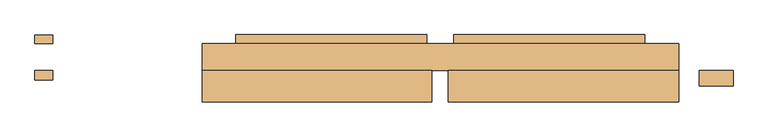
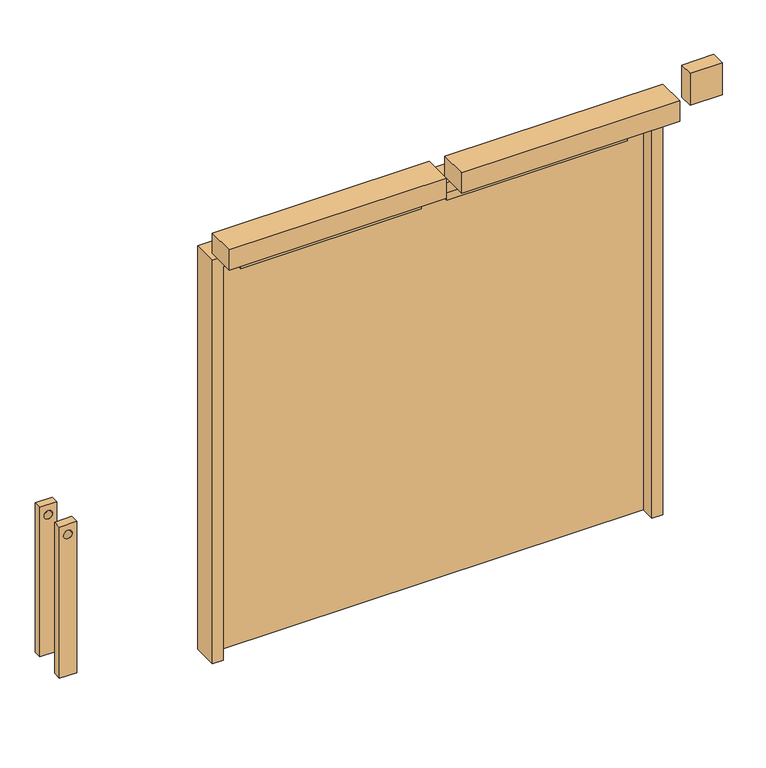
"""IFC4 building model written with IfcOpenShell, lengths in millimetres: door geometry, LOC_Pardörr : LOC_Pardörr."""

from ifc_helpers import new_model, si_unit, point, frame, frame_2d, origin, origin_with_axes, place, context, project, spatial, polyline, circle_curve, trimmed, segment, composite_curve, outline, extrude, source, transform, mapped, element, save


def door_583c14d2(model_context):
    return source(origin(), model_context, "Body", "SweptSolid", [
        extrude(outline(polyline([(905.0, 60.0), (60.0, 60.0), (60.0, 99.5123201), (905.0, 99.5123201), (905.0, 60.0)])), frame((0.0, 0.0, 1890.0), z_axis=(0.0, 0.0, 1.0), x_axis=(1.0, 0.0, 0.0)), (0.0, 0.0, 1.0), 40.0),
        extrude(outline(polyline([(-60.0, 60.0), (-905.0, 60.0), (-905.0, 99.5123201), (-60.0, 99.5123201), (-60.0, 60.0)])), frame((0.0, 0.0, 1890.0), z_axis=(0.0, 0.0, 1.0), x_axis=(1.0, 0.0, 0.0)), (0.0, 0.0, 1.0), 40.0),
        extrude(outline(polyline([(905.0, -31.5696103), (60.0, -31.5696103), (60.0, 10.0), (905.0, 10.0), (905.0, -31.5696103)])), frame((0.0, 0.0, 1890.0), z_axis=(0.0, 0.0, 1.0), x_axis=(1.0, 0.0, 0.0)), (0.0, 0.0, 1.0), 40.0),
        extrude(outline(polyline([(-60.0, -31.5696103), (-905.0, -31.5696103), (-905.0, 10.0), (-60.0, 10.0), (-60.0, -31.5696103)])), frame((0.0, 0.0, 1890.0), z_axis=(0.0, 0.0, 1.0), x_axis=(1.0, 0.0, 0.0)), (0.0, 0.0, 1.0), 40.0),
        extrude(outline(polyline([(1005.0, 10.0), (-1005.0, 10.0), (-1005.0, 60.0), (1005.0, 60.0), (1005.0, 10.0)])), origin_with_axes(), (0.0, 0.0, 1.0), 1950.0),
        extrude(outline(polyline([(2000.0, -1055.0), (0.0, -1055.0), (0.0, -1005.0), (1950.0, -1005.0), (1950.0, 1005.0), (0.0, 1005.0), (0.0, 1055.0), (2000.0, 1055.0), (2000.0, -1055.0)])), frame((0.0, -60.0, 0.0), z_axis=(0.0, 1.0, 0.0), x_axis=(0.0, 0.0, 1.0)), (0.0, 0.0, 1.0), 120.0),
        extrude(outline(polyline([(1295.9876923, -126.6811453), (1145.9876923, -126.6811453), (1145.9876923, -60.0), (1295.9876923, -60.0), (1295.9876923, -126.6811453)])), frame((0.0, 0.0, 2037.7010948), z_axis=(0.0, 0.0, 1.0), x_axis=(1.0, 0.0, 0.0)), (0.0, 0.0, 1.0), 160.0),
        extrude(outline(polyline([(961.8324144, -1715.0), (961.8324144, -1795.0), (211.8324144, -1795.0), (211.8324144, -1715.0), (961.8324144, -1715.0)]), holes=[composite_curve([segment(trimmed(circle_curve(frame_2d((911.8324144, -1755.0)), 20.0), [point((911.8324144, -1775.0))], [point((911.8324144, -1735.0))], True, "CARTESIAN"), True, "CONTINUOUS"), segment(trimmed(circle_curve(frame_2d((911.8324144, -1755.0)), 20.0), [point((911.8324144, -1735.0))], [point((911.8324144, -1775.0))], True, "CARTESIAN"), True, "CONTINUOUS")], self_intersect=False)]), frame((0.0, -99.9276756, 0.0), z_axis=(0.0, 1.0, 0.0), x_axis=(0.0, 0.0, 1.0)), (0.0, 0.0, 1.0), 39.9276756),
        extrude(outline(polyline([(961.8324144, -1795.0), (221.8324144, -1795.0), (221.8324144, -1715.0), (961.8324144, -1715.0), (961.8324144, -1795.0)]), holes=[composite_curve([segment(trimmed(circle_curve(frame_2d((911.9240107, -1755.0)), 20.0), [point((911.9240107, -1775.0))], [point((911.9240107, -1735.0))], True, "CARTESIAN"), True, "CONTINUOUS"), segment(trimmed(circle_curve(frame_2d((911.9240107, -1755.0)), 20.0), [point((911.9240107, -1735.0))], [point((911.9240107, -1775.0))], True, "CARTESIAN"), True, "CONTINUOUS")], self_intersect=False)]), frame((0.0, 60.0, 0.0), z_axis=(0.0, 1.0, 0.0), x_axis=(0.0, 0.0, 1.0)), (0.0, 0.0, 1.0), 37.1211251),
        extrude(outline(polyline([(1055.0, -198.0061913), (35.0, -198.0061913), (35.0, -60.0), (1055.0, -60.0), (1055.0, -198.0061913)])), frame((0.0, 0.0, 2035.3458836), z_axis=(0.0, 0.0, 1.0), x_axis=(1.0, 0.0, 0.0)), (0.0, 0.0, 1.0), 100.0),
        extrude(outline(polyline([(-38.7694663, -198.0061913), (-1055.0, -198.0061913), (-1055.0, -60.0), (-38.7694663, -60.0), (-38.7694663, -198.0061913)])), frame((0.0, 0.0, 2035.3458836), z_axis=(0.0, 0.0, 1.0), x_axis=(1.0, 0.0, 0.0)), (0.0, 0.0, 1.0), 100.0),
    ])


if __name__ == "__main__":
    model = new_model("IFC4")
    model_context = context("Model", 3, world=origin())
    ifc_project = project(units=[si_unit("LENGTHUNIT", "METRE", prefix="MILLI")], contexts=[model_context])
    site = spatial("IfcSite", under=ifc_project)
    building = spatial("IfcBuilding", under=site)
    placement = place(None, origin())
    door_shape = door_583c14d2(model_context)
    element("IfcDoor", 1, ObjectType="LOC_Pardörr : LOC_Pardörr", at=placement, inside=building, context=model_context, shape_type="MappedRepresentation", body=[
        mapped(door_shape, transform((0.0, 0.0, 0.0), x_axis=(1.0, 0.0, 0.0), y_axis=(0.0, 1.0, 0.0), z_axis=(0.0, 0.0, 1.0))),
    ])
    save(model, "model.ifc")
